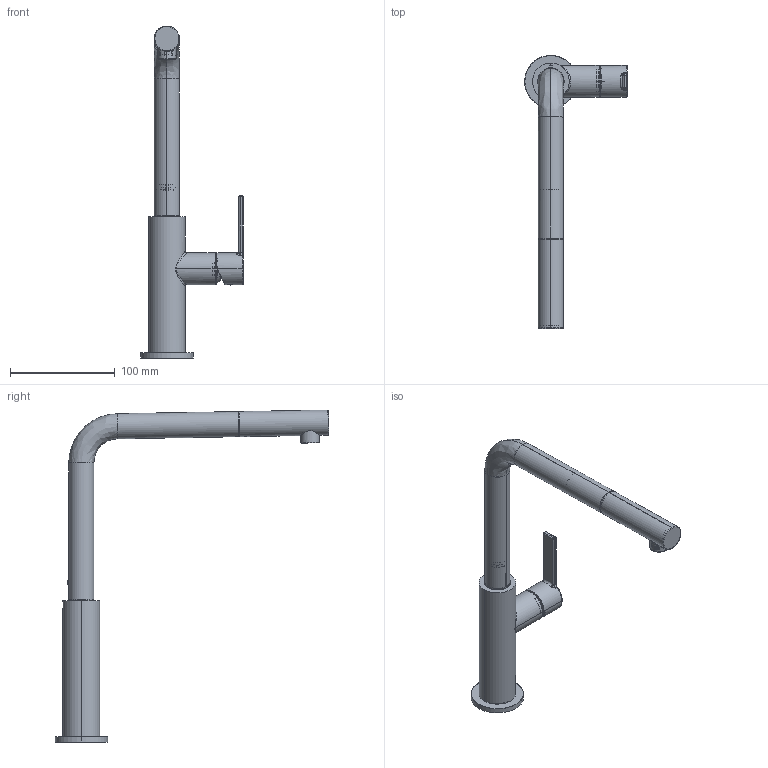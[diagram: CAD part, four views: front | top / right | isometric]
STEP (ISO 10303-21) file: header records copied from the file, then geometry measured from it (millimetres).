
FILE_DESCRIPTION(/* description */ (''),/* implementation_level */ '2;1');
FILE_NAME(/* name */ '3D001_Taps_Maris-Slim_L-Pull-Out-Nozzle',/* time_stamp */ '2026-08-04T16:57:17+02:00',/* author */ (''),/* organization */ (''),/* preprocessor_version */ 'ST-DEVELOPER v19.2',/* originating_system */ 'Rhino 8.31',/* authorisation */ '');
FILE_SCHEMA (('CONFIG_CONTROL_DESIGN'));
Length unit declared in the file: millimetre
Products named in the file (18): Document; SZA601910 01; SGU152250; SBU050801 01; SMN603190 01; SBU050720; S_AC_00280_GU; SAE031170; SGU150240; SMM254640; SBU050670; STU501050; SGU151220; S_AE_03016_GUARN_AF02; SMN602580 01; SMM254610 01; SBU050510 01; SMN604720 01
Bounding box: 97.95 x 261.19 x 316.79 mm (x, y, z)
Volume: 47952.8 mm3; surface area: 96913.1 mm2
Topology: 25 solids, 39 shells, 2488 faces, 5669 edges, 3236 vertices
Faces by surface type: plane 1227, bspline 914, cylinder 347
Entity records: 91995 total; most frequent: CARTESIAN_POINT 49985, ORIENTED_EDGE 11194, EDGE_CURVE 5633, B_SPLINE_CURVE_WITH_KNOTS 4113, VERTEX_POINT 3232, DIRECTION 3154, EDGE_LOOP 2557, ADVANCED_FACE 2484
